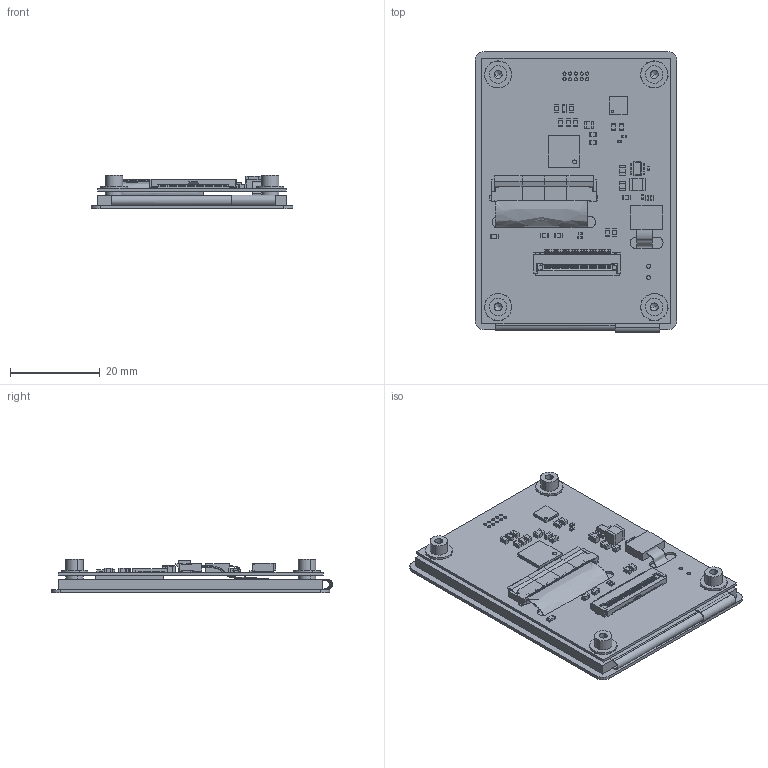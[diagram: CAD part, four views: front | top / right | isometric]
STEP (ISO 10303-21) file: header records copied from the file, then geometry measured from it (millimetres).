
FILE_DESCRIPTION (( 'STEP AP214' ), '1' );
FILE_NAME ('CFAF240320A0-024SC-A1-1.STEP', '2021-01-18T23:51:03', ( '' ), ( '' ), 'SwSTEP 2.0', 'SolidWorks 2020', '' );
FILE_SCHEMA (( 'AUTOMOTIVE_DESIGN' ));
Length unit declared in the file: millimetre
Products named in the file (6): CFAF240320A0-024SC-A1-1; cfa_10109; CFPN_01712; CFAF240320A0-024SC no tail; Tail^CFAF240320A0-024SC-A1-1 - Copy; VHB_TapeShort
Assembly tree (8 placements, depth 2):
  CFAF240320A0-024SC-A1-1
    cfa_10109
    CFAF240320A0-024SC no tail
    VHB_TapeShort
    Tail^CFAF240320A0-024SC-A1-1 - Copy
    CFPN_01712  x4
Bounding box: 45 x 62.63 x 7.56 mm (x, y, z)
Volume: 8194 mm3; surface area: 21484.1 mm2
Topology: 9 solids, 225 shells, 6371 faces, 17300 edges, 11256 vertices
Faces by surface type: plane 4925, cylinder 1409, sphere 16, bspline 13, cone 8
Entity records: 213151 total; most frequent: CARTESIAN_POINT 50349, ORIENTED_EDGE 34168, DIRECTION 27818, EDGE_CURVE 17206, VERTEX_POINT 11205, LINE 9690, VECTOR 9690, AXIS2_PLACEMENT_3D 9064
